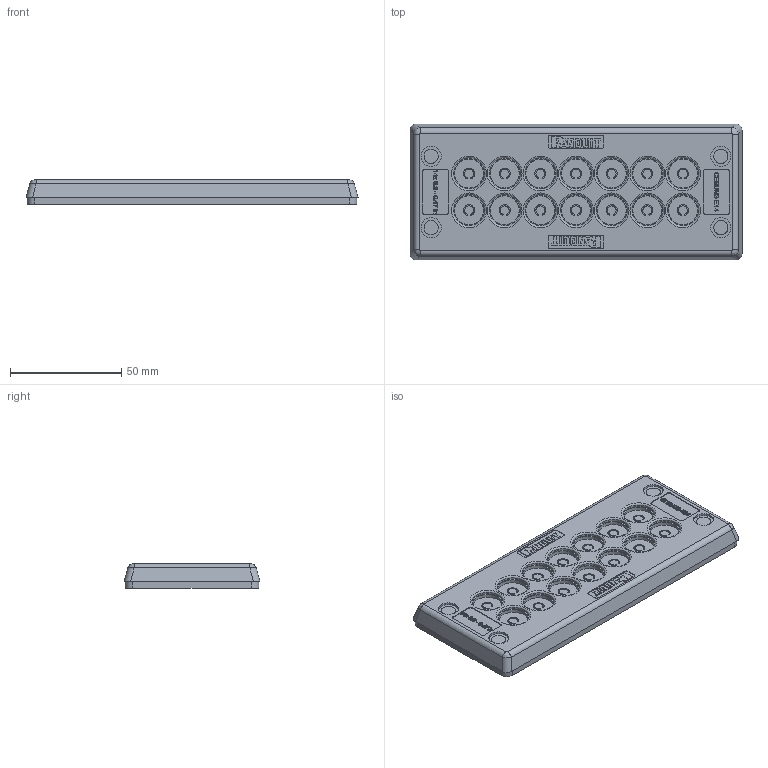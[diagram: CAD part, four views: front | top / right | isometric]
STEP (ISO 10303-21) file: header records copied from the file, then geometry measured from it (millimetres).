
FILE_DESCRIPTION(/* description */ (''),/* implementation_level */ '2;1');
FILE_NAME(/* name */ 'C:\SapWorkDir\Inventor\MP1\ConvertTempPath\87_16_121310_00_A_220603_KDP-Z 24-14.stp',/* time_stamp */ '2022-06-03T09:36:38+02:00',/* author */ ('BAUER'),/* organization */ (''),/* preprocessor_version */ 'ST-DEVELOPER v16.13',/* originating_system */ 'Autodesk Inventor 2018',/* authorisation */ '');
FILE_SCHEMA (('AUTOMOTIVE_DESIGN { 1 0 10303 214 3 1 1 }'));
Products named in the file (1): 121310
Bounding box: 149 x 61 x 11 mm (x, y, z)
Volume: 44265.4 mm3; surface area: 45205.8 mm2
Topology: 2 solids, 2 shells, 2028 faces, 5189 edges, 3198 vertices
Faces by surface type: plane 1043, cylinder 620, bspline 153, sphere 126, cone 64, torus 22
Full cylindrical faces by diameter (mm): 6 x3, 6.4 x8
Entity records: 61689 total; most frequent: CARTESIAN_POINT 12964, DIRECTION 9987, ORIENTED_EDGE 9964, EDGE_CURVE 4982, AXIS2_PLACEMENT_3D 3385, LINE 3217, VECTOR 3217, VERTEX_POINT 3186
